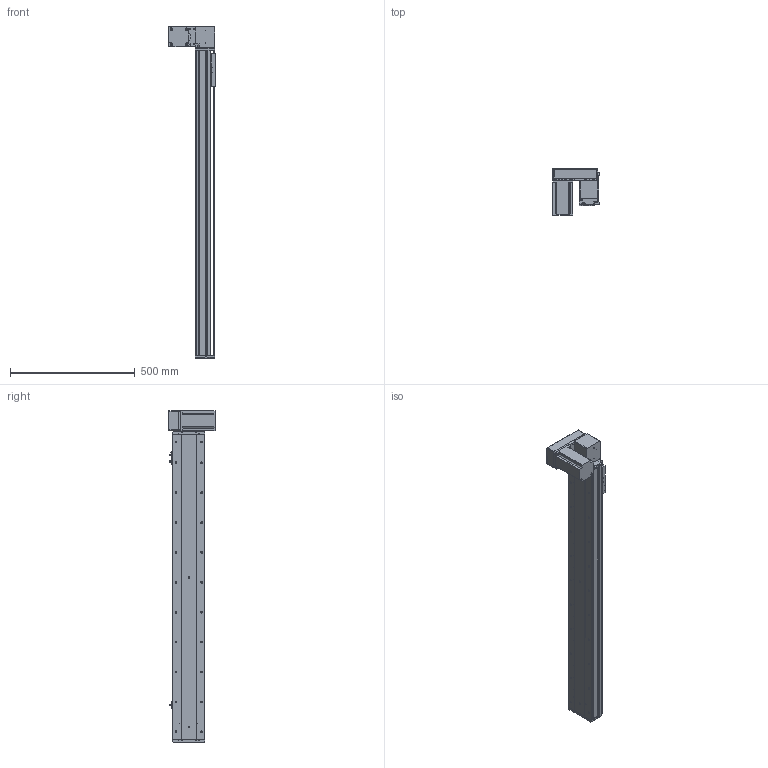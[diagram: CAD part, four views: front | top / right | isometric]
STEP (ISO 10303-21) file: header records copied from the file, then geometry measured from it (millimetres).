
FILE_DESCRIPTION (( 'STEP AP203' ), '1' );
FILE_NAME ('KSD130B-S1000-MRD-CM.STEP', '2019-09-23T01:41:11', ( '微软用户' ), ( '微软中国' ), 'SwSTEP 2.0', 'SolidWorks 2014', '' );
FILE_SCHEMA (( 'CONFIG_CONTROL_DESIGN' ));
Length unit declared in the file: millimetre
Products named in the file (12): 覜茼え100遵圉猾敕; 130宽模组马达安装板连板上下折丝杆同步带; 130宽底板半封闭同步带-1000行程; 台达ECMA－C20807AS伺服电机; 130宽端盖同步带半封闭; 130宽模组保护罩上下左右折-同步带; 130宽同步带安装座半封闭; KSD130B-S1000-MRD-CM; 130宽马达安装板同步带半封闭; 130宽马达安装板同步带右-改镜向_默认<按加工>; 130宽盖板半封闭同步带-1000行程; U倰嫖萇EEㄜSX672
Assembly tree (13 placements, depth 2):
  KSD130B-S1000-MRD-CM
    130宽底板半封闭同步带-1000行程
    130宽端盖同步带半封闭
    130宽同步带安装座半封闭
    130宽马达安装板同步带半封闭
    130宽马达安装板同步带右-改镜向_默认<按加工>
    130宽盖板半封闭同步带-1000行程
    U倰嫖萇EEㄜSX672  x3
    覜茼え100遵圉猾敕
    130宽模组马达安装板连板上下折丝杆同步带
    台达ECMA－C20807AS伺服电机
    130宽模组保护罩上下左右折-同步带
Bounding box: 186 x 184.8 x 1333 mm (x, y, z)
Volume: 4965462.8 mm3; surface area: 1356562.3 mm2
Topology: 14 solids, 14 shells, 1539 faces, 4405 edges, 2811 vertices
Faces by surface type: cylinder 738, plane 626, cone 175
Entity records: 46653 total; most frequent: CARTESIAN_POINT 9456, DIRECTION 7727, ORIENTED_EDGE 7446, EDGE_CURVE 3723, AXIS2_PLACEMENT_3D 2822, VERTEX_POINT 2435, LINE 2083, VECTOR 2083
